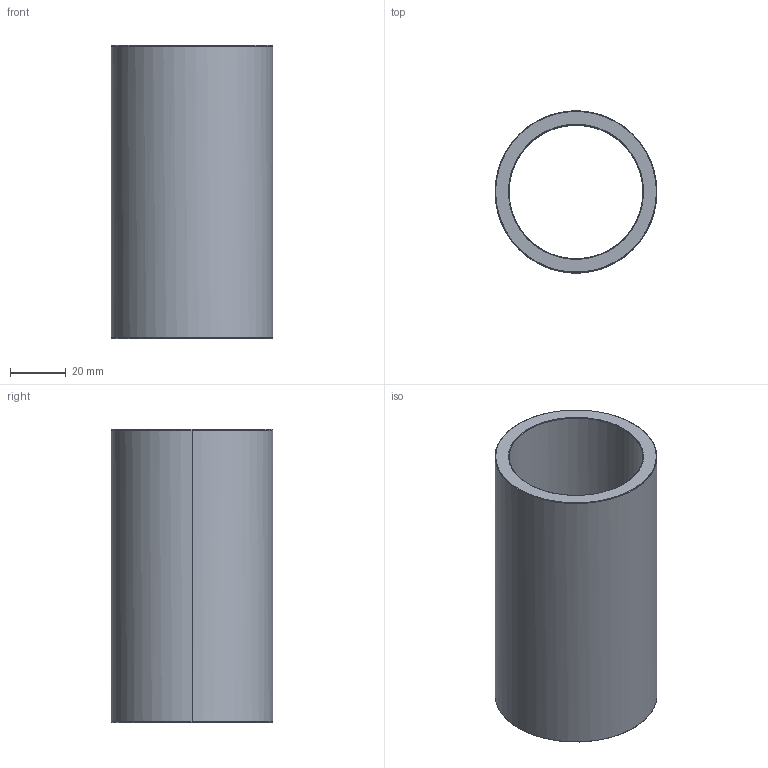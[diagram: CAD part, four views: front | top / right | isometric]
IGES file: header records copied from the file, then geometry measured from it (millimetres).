
Start section: Write IGES format                                    datakit 2008 (c)
Global section: file name: Unknown; native system: DATAKIT Converter; preprocessor: Unknown; author: Unknown; organization: Unknown; date: 950613.180003; units: millimetre
Bounding box: 58 x 57.92 x 105 mm (x, y, z)
Surface area: 36552.9 mm2 (no closed solid volume)
Topology: 0 solids, 0 shells, 14 faces, 56 edges, 56 vertices
Faces by surface type: revolution 12, bspline 2
